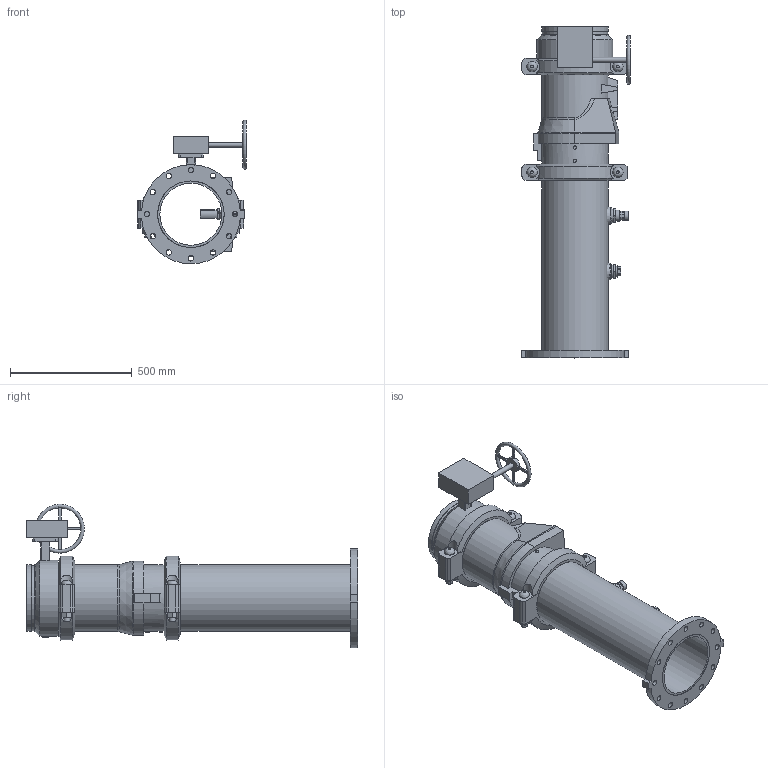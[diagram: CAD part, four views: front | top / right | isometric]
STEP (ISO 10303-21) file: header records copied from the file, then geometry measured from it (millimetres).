
FILE_DESCRIPTION(/* description */ ('VIC DVI PUMP DROP VERT S/380 (OGSxFLG) (S/924-0.75)','CAx-IF Rec.Pracs.---Representation and Presentation of Product Manufacturing Information (PMI)---4.0---2014-10-13'),/* implementation_level */ '2;1');
FILE_NAME(/* name */ 'C:\Users\Public\Documents\Victaulic.Temp\A765\Victaulic_IPS_Vertical DVI_CL 150_Series 380 (OGSxFLG)_924 (0.75)_10.0x10.0 (250x250).stp',/* time_stamp */ '2022-07-25T11:14:26+02:00',/* author */ ('Vjadhav'),/* organization */ ('Victaulic'),/* preprocessor_version */ 'ST-DEVELOPER v18',/* originating_system */ 'Autodesk Inventor 2020',/* authorisation */ '');
FILE_SCHEMA (('AP242_MANAGED_MODEL_BASED_3D_ENGINEERING_MIM_LF { 1 0 10303 442 1 1 4 }'));
Length unit declared in the file: inch
Products named in the file (8): 380_924 (0.75)-10.0x10.0; 741-10.0; Pipe-10.0x10.0; 779-10.0; 923-10.0x0.75; 924-10.0x0.75; 761-10.0; 077-10.0
Assembly tree (8 placements, depth 2):
  380_924 (0.75)-10.0x10.0
    741-10.0
    Pipe-10.0x10.0
    779-10.0
    923-10.0x0.75
    924-10.0x0.75
    761-10.0
    077-10.0  x2
Bounding box: 447.17 x 1361.69 x 588.75 mm (x, y, z)
Volume: 26177617.7 mm3; surface area: 3490458.3 mm2
Topology: 8 solids, 13 shells, 419 faces, 1061 edges, 720 vertices
Faces by surface type: plane 255, cylinder 137, cone 14, torus 7, bspline 6
Full cylindrical faces by diameter (mm): 10.922 x4, 12.7 x1, 13.716 x4, 20.066 x1, 21.336 x1, 22.225 x12, 22.86 x1, 25.4 x8, 26.67 x2, 27.432 x4, 38.608 x1, 45.974 x4, 55.626 x2, 63.079 x1, 70.104 x1, 76.2 x1, 254.508 x3, 264.16 x2, 268.275 x6, 273.05 x16, 311.15 x1
Entity records: 12296 total; most frequent: CARTESIAN_POINT 2505, DIRECTION 1982, ORIENTED_EDGE 1832, EDGE_CURVE 916, AXIS2_PLACEMENT_3D 749, VERTEX_POINT 622, LINE 484, VECTOR 484
